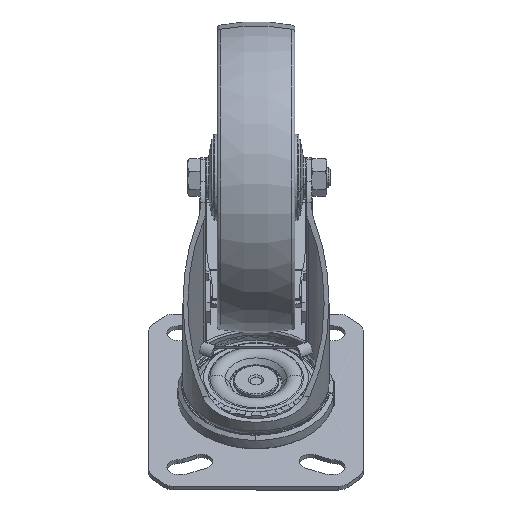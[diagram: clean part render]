
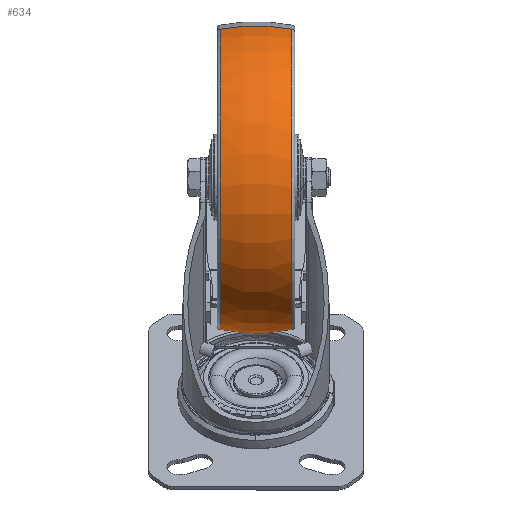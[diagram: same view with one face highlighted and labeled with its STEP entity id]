
A CAD part, front view. The second image highlights one B-rep face of the part: STEP entity #634.
In plain terms, the highlighted toroidal (fillet/blend) face has major radius 20 mm and minor radius 100 mm.
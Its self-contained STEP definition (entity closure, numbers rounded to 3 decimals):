
#634 = ADVANCED_FACE ( 'NONE', ( #7962 ), #7865, .T. ) ;
#748 = ORIENTED_EDGE ( 'NONE', *, *, #15893, .T. ) ;
#824 = ORIENTED_EDGE ( 'NONE', *, *, #15849, .F. ) ;
#1032 = CIRCLE ( 'NONE', #1036, 78.299 ) ;
#1036 = AXIS2_PLACEMENT_3D ( 'NONE', #1091, #1077, #1076 ) ;
#1076 = DIRECTION ( 'NONE',  ( 0., -0.237, 0.972 ) ) ;
#1077 = DIRECTION ( 'NONE',  ( -1., 0., 0. ) ) ;
#1091 = CARTESIAN_POINT ( 'NONE',  ( -32.891, 12.19, -0.618 ) ) ;
#1196 = DIRECTION ( 'NONE',  ( -1., 0., 0. ) ) ;
#1200 = DIRECTION ( 'NONE',  ( 0., -0.237, 0.972 ) ) ;
#1202 = AXIS2_PLACEMENT_3D ( 'NONE', #1213, #1196, #1200 ) ;
#1204 = CIRCLE ( 'NONE', #1202, 78.299 ) ;
#1213 = CARTESIAN_POINT ( 'NONE',  ( 3.844, 12.19, -0.618 ) ) ;
#4304 = EDGE_CURVE ( 'NONE', #4706, #4333, #16917, .T. ) ;
#4322 = VERTEX_POINT ( 'NONE', #17031 ) ;
#4329 = EDGE_CURVE ( 'NONE', #4705, #4322, #17029, .T. ) ;
#4333 = VERTEX_POINT ( 'NONE', #17018 ) ;
#4705 = VERTEX_POINT ( 'NONE', #17847 ) ;
#4706 = VERTEX_POINT ( 'NONE', #17831 ) ;
#7857 = CARTESIAN_POINT ( 'NONE',  ( -14.524, 12.19, -0.618 ) ) ;
#7865 = TOROIDAL_SURFACE ( 'NONE', #7895, -20., 100. ) ;
#7884 = DIRECTION ( 'NONE',  ( -1., 0., 0. ) ) ;
#7895 = AXIS2_PLACEMENT_3D ( 'NONE', #7857, #7884, #7950 ) ;
#7950 = DIRECTION ( 'NONE',  ( 0., -0.237, 0.972 ) ) ;
#7962 = FACE_OUTER_BOUND ( 'NONE', #15951, .T. ) ;
#15849 = EDGE_CURVE ( 'NONE', #4333, #4322, #1032, .T. ) ;
#15893 = EDGE_CURVE ( 'NONE', #4706, #4705, #1204, .T. ) ;
#15951 = EDGE_LOOP ( 'NONE', ( #16091, #748, #15952, #824 ) ) ;
#15952 = ORIENTED_EDGE ( 'NONE', *, *, #4329, .T. ) ;
#16091 = ORIENTED_EDGE ( 'NONE', *, *, #4304, .F. ) ;
#16858 = DIRECTION ( 'NONE',  ( 0., -0.237, 0.972 ) ) ;
#16859 = DIRECTION ( 'NONE',  ( 0., 0.972, 0.237 ) ) ;
#16860 = CARTESIAN_POINT ( 'NONE',  ( -14.524, 7.454, 18.814 ) ) ;
#16865 = AXIS2_PLACEMENT_3D ( 'NONE', #16860, #16859, #16858 ) ;
#16917 = CIRCLE ( 'NONE', #16865, 100. ) ;
#17013 = DIRECTION ( 'NONE',  ( 0., 0.237, -0.972 ) ) ;
#17014 = DIRECTION ( 'NONE',  ( 0., -0.972, -0.237 ) ) ;
#17015 = CARTESIAN_POINT ( 'NONE',  ( -14.524, 16.926, -20.049 ) ) ;
#17017 = AXIS2_PLACEMENT_3D ( 'NONE', #17015, #17014, #17013 ) ;
#17018 = CARTESIAN_POINT ( 'NONE',  ( -32.891, 30.731, -76.689 ) ) ;
#17029 = CIRCLE ( 'NONE', #17017, 100. ) ;
#17031 = CARTESIAN_POINT ( 'NONE',  ( -32.891, -6.352, 75.454 ) ) ;
#17831 = CARTESIAN_POINT ( 'NONE',  ( 3.844, 30.731, -76.689 ) ) ;
#17847 = CARTESIAN_POINT ( 'NONE',  ( 3.844, -6.352, 75.454 ) ) ;
